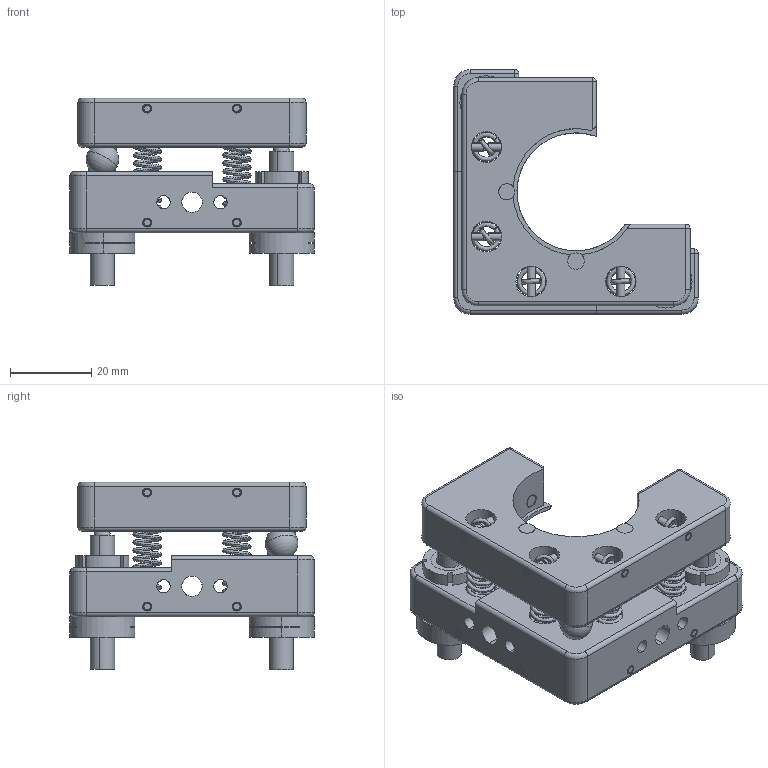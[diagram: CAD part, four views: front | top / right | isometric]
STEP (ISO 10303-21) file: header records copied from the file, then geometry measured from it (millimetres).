
FILE_DESCRIPTION (( 'STEP AP203' ), '1' );
FILE_NAME ('7MM1630謗峎覃淕噩殤.STEP', '2019-10-22T06:01:41', ( '' ), ( '' ), 'SwSTEP 2.0', 'SolidWorks 2014', '' );
FILE_SCHEMA (( 'CONFIG_CONTROL_DESIGN' ));
Length unit declared in the file: millimetre
Products named in the file (1): 7MM1630謗峎覃淕噩殤
Bounding box: 60 x 60 x 46.01 mm (x, y, z)
Surface area: 23484.7 mm2 (no closed solid volume)
Topology: 0 solids, 40 shells, 380 faces, 1055 edges, 666 vertices
Faces by surface type: cylinder 169, plane 99, torus 44, bspline 32, cone 22, sphere 14
Entity records: 23930 total; most frequent: CARTESIAN_POINT 14325, DIRECTION 2111, ORIENTED_EDGE 1810, EDGE_CURVE 1014, AXIS2_PLACEMENT_3D 851, VERTEX_POINT 657, CIRCLE 502, EDGE_LOOP 452
